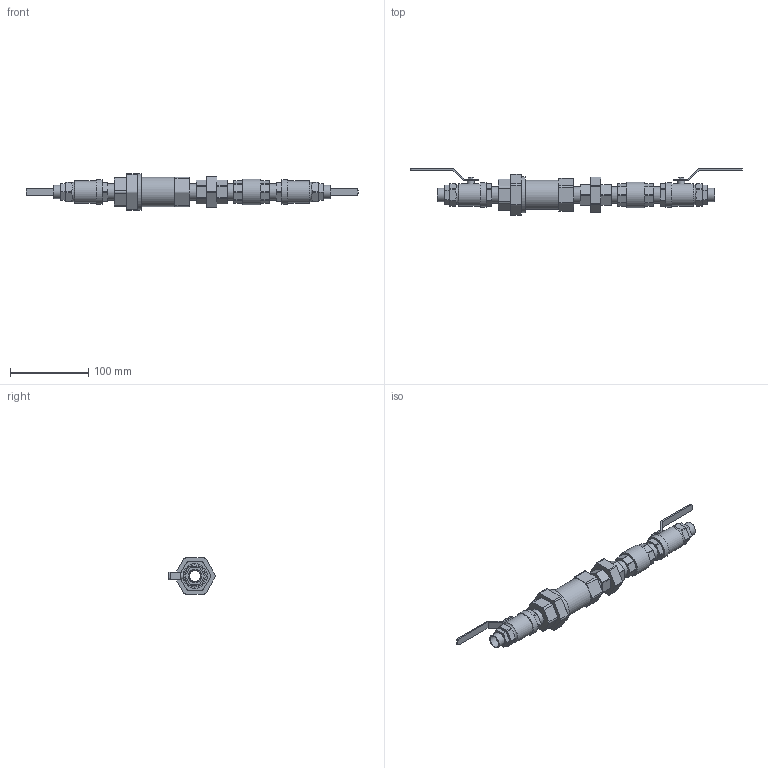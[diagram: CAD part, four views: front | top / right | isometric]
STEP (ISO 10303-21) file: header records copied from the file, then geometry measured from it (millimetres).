
FILE_DESCRIPTION(/* description */ ('VIC DOMESTIC WATER KIT FOR HYDRONIC BALANCING SERIES 7WX (SWT)','CAx-IF Rec.Pracs.---Representation and Presentation of Product Manufacturing Information (PMI)---4.0---2014-10-13'),/* implementation_level */ '2;1');
FILE_NAME(/* name */ 'C:\Users\Vjadhav\AppData\Roaming\Autodesk\ApplicationPlugins\Victaulic.Temp\A398\Victaulic_Domestic Water Kit for Hydronic Balancing_Series 7WX (CPF)_SWT_0.5 (15).stp',/* time_stamp */ '2021-08-10T11:09:48+06:00',/* author */ ('Vjadhav'),/* organization */ ('Victaulic'),/* preprocessor_version */ 'ST-DEVELOPER v17.2',/* originating_system */ 'Autodesk Inventor 2019',/* authorisation */ '');
FILE_SCHEMA (('AP242_MANAGED_MODEL_BASED_3D_ENGINEERING_MIM_LF { 1 0 10303 442 1 1 4 }'));
Length unit declared in the file: inch
Products named in the file (7): 7WX_SWT-0.5; Union_BR_386-0.5; Check_Valve_4133-0.5; Nipple_BR_386_Swt-0.5; 722L_Swt-0.5; Adapter_Sweat_604-0.5; 76X-0.5
Assembly tree (11 placements, depth 2):
  7WX_SWT-0.5
    Union_BR_386-0.5
    Nipple_BR_386_Swt-0.5  x4
    722L_Swt-0.5  x2
    Check_Valve_4133-0.5
    Adapter_Sweat_604-0.5  x2
    76X-0.5
Bounding box: 425.45 x 60.07 x 46.21 mm (x, y, z)
Volume: 213381.5 mm3; surface area: 85625.8 mm2
Topology: 11 solids, 11 shells, 346 faces, 908 edges, 616 vertices
Faces by surface type: plane 242, cylinder 102, torus 2
Full cylindrical faces by diameter (mm): 3.81 x2, 8.763 x2, 13.868 x2, 15.799 x5, 15.875 x2, 15.9 x4, 17.297 x2, 21.336 x16, 28.567 x2, 31.496 x2, 33.02 x1, 37.316 x1, 46.206 x1
Entity records: 8269 total; most frequent: CARTESIAN_POINT 1441, DIRECTION 1379, ORIENTED_EDGE 1276, EDGE_CURVE 638, AXIS2_PLACEMENT_3D 490, VERTEX_POINT 430, LINE 399, VECTOR 399
